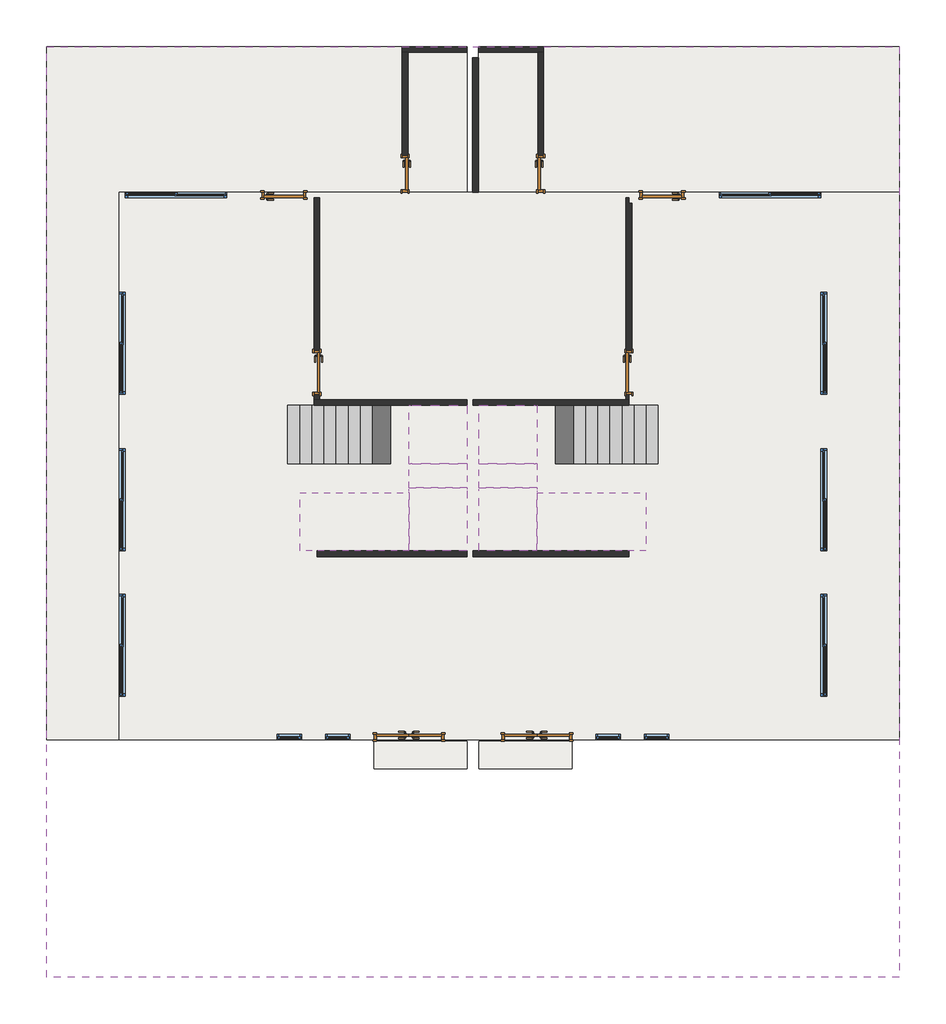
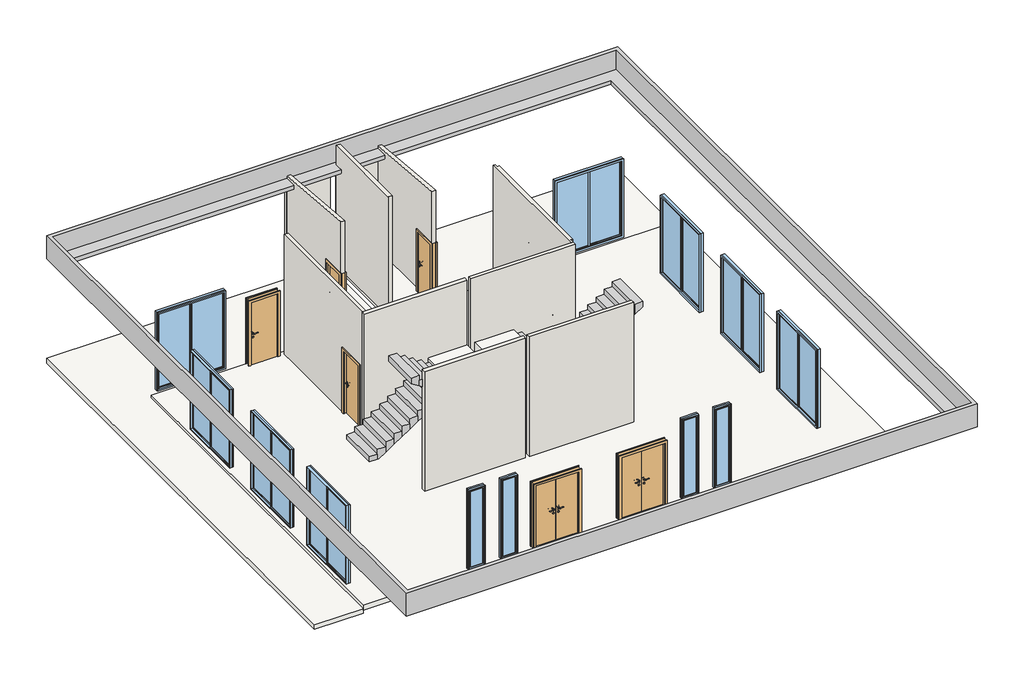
# One storey, incomplete: 12 windows, 11 walls, 8 doors, 8 slabs, 6 stair flights, 1 proxy.
"""IFC4 building model written with IfcOpenShell, lengths in millimetres."""

from ifc_helpers import new_model, si_unit, frame, origin, origin_with_axes, place, context, project, spatial, polyline, outline, extrude, faceted_brep, transform, mapped, element, save
from components import generic_models_b7c912bf, m1_178dd28f, m1_b2f3dea5, m2_c7316569, m2_7e48c0ad, m3_20c00246, m3_ef5b271f, c1_883b8060, c1_4246e2e2, c2_1197bc4f, c2_0ae93d67

model = new_model("IFC4")

# Units and contexts
model_context = context("Model", 3, world=origin())
ifc_project = project(units=[si_unit("LENGTHUNIT", "METRE", prefix="MILLI")], contexts=[model_context])

# Site, building, storey
site = spatial("IfcSite", under=ifc_project)
building = spatial("IfcBuilding", under=site)
storey = spatial("IfcBuildingStorey", under=building, Name="标高 1", Elevation=0.0)

# Proxy
placement = place(None, origin())
generic_models_shape = generic_models_b7c912bf(model_context)
element("IfcBuildingElementProxy", 1, Name="线条 : 线条", ObjectType="线条 : 线条", at=placement, inside=storey, context=model_context, shape_type="MappedRepresentation", body=[
    mapped(generic_models_shape, transform((0.0, 0.0, 0.0), x_axis=(1.0, 0.0, 0.0), y_axis=(0.0, 1.0, 0.0), z_axis=(0.0, 0.0, 1.0))),
])

# Doors
m1_shape = m1_178dd28f(model_context)
element("IfcDoor", 2, ObjectType="单嵌板木门 1 : M1", at=placement, inside=storey, context=model_context, shape_type="MappedRepresentation", body=[
    mapped(m1_shape, transform((-2784.0293904, 13228.7732284, 0.0), x_axis=(1.0, 0.0, 0.0), y_axis=(0.0, 1.0, 0.0), z_axis=(0.0, 0.0, 1.0))),
])
element("IfcDoor", 3, ObjectType="单嵌板木门 1 : M1", at=placement, inside=storey, context=model_context, shape_type="MappedRepresentation", body=[
    mapped(m1_shape, transform((4335.9706096, 9568.7732284, 0.0), x_axis=(0.0, -1.0, 0.0), y_axis=(1.0, 0.0, 0.0), z_axis=(0.0, 0.0, 1.0))),
])
m1_2_shape = m1_b2f3dea5(model_context)
element("IfcDoor", 4, ObjectType="单嵌板木门 1 : M1", at=placement, inside=storey, context=model_context, shape_type="MappedRepresentation", body=[
    mapped(m1_2_shape, transform((-2104.0293904, 9568.7732284, 0.0), x_axis=(0.0, -1.0, 0.0), y_axis=(1.0, 0.0, 0.0), z_axis=(0.0, 0.0, 1.0))),
])
element("IfcDoor", 5, ObjectType="单嵌板木门 1 : M1", at=placement, inside=storey, context=model_context, shape_type="MappedRepresentation", body=[
    mapped(m1_2_shape, transform((5015.9706096, 13228.7732284, 0.0), x_axis=(-1.0, 0.0, 0.0), y_axis=(0.0, -1.0, 0.0), z_axis=(0.0, 0.0, 1.0))),
])
m2_shape = m2_c7316569(model_context)
element("IfcDoor", 6, ObjectType="双面嵌板木门 1 : M2", at=placement, inside=storey, context=model_context, shape_type="MappedRepresentation", body=[
    mapped(m2_shape, transform((-204.0293904, 2048.7732284, 0.0), x_axis=(1.0, 0.0, 0.0), y_axis=(0.0, 1.0, 0.0), z_axis=(0.0, 0.0, 1.0))),
])
m2_2_shape = m2_7e48c0ad(model_context)
element("IfcDoor", 7, ObjectType="双面嵌板木门 1 : M2", at=placement, inside=storey, context=model_context, shape_type="MappedRepresentation", body=[
    mapped(m2_2_shape, transform((2435.9706096, 2048.7732284, 0.0), x_axis=(-1.0, 0.0, 0.0), y_axis=(0.0, -1.0, 0.0), z_axis=(0.0, 0.0, 1.0))),
])
m3_shape = m3_20c00246(model_context)
element("IfcDoor", 8, ObjectType="单嵌板木门 1 : M3", at=placement, inside=storey, context=model_context, shape_type="MappedRepresentation", body=[
    mapped(m3_shape, transform((-284.0293904, 13663.7732284, -100.0), x_axis=(0.0, -1.0, 0.0), y_axis=(1.0, 0.0, 0.0), z_axis=(0.0, 0.0, 1.0))),
])
m3_2_shape = m3_ef5b271f(model_context)
element("IfcDoor", 9, ObjectType="单嵌板木门 1 : M3", at=placement, inside=storey, context=model_context, shape_type="MappedRepresentation", body=[
    mapped(m3_2_shape, transform((2515.9706096, 13663.7732284, -100.0), x_axis=(0.0, -1.0, 0.0), y_axis=(1.0, 0.0, 0.0), z_axis=(0.0, 0.0, 1.0))),
])

# Slabs
element("IfcSlab", 10, ObjectType="常规 - 150mm", at=placement, inside=storey, context=model_context, shape_type="SweptSolid", body=[
    extrude(outline(polyline([(-7684.0293904, 16288.7732284), (995.9706096, 16288.7732284), (995.9706096, 13288.7732284), (-6184.0293904, 13288.7732284), (-6184.0293904, 1988.7732284), (-7684.0293904, 1988.7732284), (-7684.0293904, 16288.7732284)])), frame((0.0, 0.0, -250.0), z_axis=(0.0, 0.0, 1.0), x_axis=(1.0, 0.0, 0.0)), (0.0, 0.0, 1.0), 150.0),
    extrude(outline(polyline([(9915.9706096, 16288.7732284), (9915.9706096, 1988.7732284), (8415.9706096, 1988.7732284), (8415.9706096, 13288.7732284), (1225.9706096, 13288.7732284), (1225.9706096, 16288.7732284), (9915.9706096, 16288.7732284)])), frame((0.0, 0.0, -250.0), z_axis=(0.0, 0.0, 1.0), x_axis=(1.0, 0.0, 0.0)), (0.0, 0.0, 1.0), 150.0),
])
element("IfcSlab", 11, ObjectType="常规 - 150mm", at=placement, inside=storey, context=model_context, shape_type="SweptSolid", body=[
    extrude(outline(polyline([(9915.9706096, 13288.7732284), (9915.9706096, 1988.7732284), (-6184.0293904, 1988.7732284), (-6184.0293904, 13288.7732284), (9915.9706096, 13288.7732284)])), frame((0.0, 0.0, -150.0), z_axis=(0.0, 0.0, 1.0), x_axis=(1.0, 0.0, 0.0)), (0.0, 0.0, 1.0), 150.0),
])
element("IfcSlab", 12, ObjectType="常规 - 150mm", at=placement, inside=storey, context=model_context, shape_type="SweptSolid", body=[
    extrude(outline(polyline([(995.9706096, 1963.7732284), (995.9706096, 1388.7732284), (-924.0293904, 1388.7732284), (-924.0293904, 1963.7732284), (995.9706096, 1963.7732284)])), frame((0.0, 0.0, -150.0), z_axis=(0.0, 0.0, 1.0), x_axis=(1.0, 0.0, 0.0)), (0.0, 0.0, 1.0), 150.0),
])
element("IfcSlab", 13, ObjectType="常规 - 150mm", at=placement, inside=storey, context=model_context, shape_type="SweptSolid", body=[
    extrude(outline(polyline([(1235.9706096, 1963.7732284), (3155.9706096, 1963.7732284), (3155.9706096, 1388.7732284), (1235.9706096, 1388.7732284), (1235.9706096, 1963.7732284)])), frame((0.0, 0.0, -150.0), z_axis=(0.0, 0.0, 1.0), x_axis=(1.0, 0.0, 0.0)), (0.0, 0.0, 1.0), 150.0),
])
element("IfcSlab", 14, ObjectType="300mm 厚度", at=placement, inside=storey, context=model_context, shape_type="Brep", body=[
    faceted_brep([(-204.0293904, 8888.7732284, 1787.5), (-204.0293904, 7688.7732284, 1787.5), (995.9706096, 7688.7732284, 1787.5), (995.9706096, 7875.076449, 1787.5), (995.9706096, 8888.7732284, 1787.5), (-140.332611, 8888.7732284, 1787.5), (-204.0293904, 8888.7732284, 1625.0), (-204.0293904, 8888.7732284, 1446.0970934), (-204.0293904, 7688.7732284, 1446.0970934), (-204.0293904, 7688.7732284, 1608.5970934), (-204.0293904, 7688.7732284, 1625.0), (-140.332611, 7688.7732284, 1487.5), (-140.332611, 7688.7732284, 1608.5970934), (995.9706096, 7688.7732284, 1608.5970934), (995.9706096, 7875.076449, 1487.5), (995.9706096, 8888.7732284, 1487.5), (-140.332611, 8888.7732284, 1487.5), (-140.332611, 7875.076449, 1487.5)], [[[0, 1, 2, 3, 4, 5]], [[1, 0, 6, 7, 8, 9, 10]], [[2, 1, 10, 9, 8, 11, 12, 13]], [[2, 13, 14, 15, 4, 3]], [[7, 6, 0, 5, 4, 15, 16]], [[17, 16, 15, 14]], [[17, 11, 8, 7, 16]], [[11, 17, 12]], [[17, 14, 13, 12]]]),
])
element("IfcSlab", 15, ObjectType="300mm 厚度", at=placement, inside=storey, context=model_context, shape_type="Brep", body=[
    faceted_brep([(995.9706096, 7188.7732284, 2275.0), (-204.0293904, 7188.7732284, 2275.0), (-204.0293904, 7125.076449, 2275.0), (-204.0293904, 7088.7732284, 2275.0), (-204.0293904, 5888.7732284, 2275.0), (-17.7261698, 5888.7732284, 2275.0), (995.9706096, 5888.7732284, 2275.0), (995.9706096, 7125.076449, 2275.0), (995.9706096, 7188.7732284, 2112.5), (995.9706096, 7188.7732284, 1933.5970934), (-204.0293904, 7188.7732284, 1933.5970934), (-204.0293904, 7188.7732284, 2112.5), (-204.0293904, 7125.076449, 1975.0), (-204.0293904, 7088.7732284, 1975.0), (-204.0293904, 7088.7732284, 2096.0970934), (-204.0293904, 5888.7732284, 2096.0970934), (-17.7261698, 5888.7732284, 1975.0), (995.9706096, 5888.7732284, 1975.0), (995.9706096, 7125.076449, 1975.0), (-17.7261698, 7088.7732284, 1975.0)], [[[0, 1, 2, 3, 4, 5, 6, 7]], [[1, 0, 8, 9, 10, 11]], [[1, 11, 10, 12, 13, 14, 3, 2]], [[4, 3, 14, 15]], [[4, 15, 16, 17, 6, 5]], [[9, 8, 0, 7, 6, 17, 18]], [[19, 13, 12, 18, 17, 16]], [[13, 19, 14]], [[18, 12, 10, 9]], [[19, 16, 15, 14]]]),
])
element("IfcSlab", 16, ObjectType="300mm 厚度", at=placement, inside=storey, context=model_context, shape_type="Brep", body=[
    faceted_brep([(2435.9706096, 7688.7732284, 1787.5), (2435.9706096, 8888.7732284, 1787.5), (2372.2738302, 8888.7732284, 1787.5), (1235.9706096, 8888.7732284, 1787.5), (1235.9706096, 7875.076449, 1787.5), (1235.9706096, 7688.7732284, 1787.5), (2435.9706096, 7688.7732284, 1625.0), (2435.9706096, 7688.7732284, 1608.5970934), (2435.9706096, 7688.7732284, 1446.0970934), (2435.9706096, 8888.7732284, 1446.0970934), (2435.9706096, 8888.7732284, 1625.0), (1235.9706096, 7688.7732284, 1608.5970934), (2372.2738302, 7688.7732284, 1608.5970934), (2372.2738302, 7688.7732284, 1487.5), (1235.9706096, 8888.7732284, 1487.5), (1235.9706096, 7875.076449, 1487.5), (2372.2738302, 8888.7732284, 1487.5), (2372.2738302, 7875.076449, 1487.5)], [[[0, 1, 2, 3, 4, 5]], [[1, 0, 6, 7, 8, 9, 10]], [[0, 5, 11, 12, 13, 8, 7, 6]], [[3, 14, 15, 11, 5, 4]], [[1, 10, 9, 16, 14, 3, 2]], [[16, 17, 15, 14]], [[13, 17, 16, 9, 8]], [[17, 13, 12]], [[15, 17, 12, 11]]]),
])
element("IfcSlab", 17, ObjectType="300mm 厚度", at=placement, inside=storey, context=model_context, shape_type="Brep", body=[
    faceted_brep([(2435.9706096, 7188.7732284, 2275.0), (1235.9706096, 7188.7732284, 2275.0), (1235.9706096, 7125.076449, 2275.0), (1235.9706096, 5888.7732284, 2275.0), (2249.667389, 5888.7732284, 2275.0), (2435.9706096, 5888.7732284, 2275.0), (2435.9706096, 7088.7732284, 2275.0), (2435.9706096, 7125.076449, 2275.0), (2435.9706096, 7188.7732284, 2112.5), (2435.9706096, 7188.7732284, 1933.5970934), (1235.9706096, 7188.7732284, 1933.5970934), (1235.9706096, 7188.7732284, 2112.5), (2435.9706096, 7088.7732284, 2096.0970934), (2435.9706096, 7088.7732284, 1975.0), (2435.9706096, 7125.076449, 1975.0), (2435.9706096, 5888.7732284, 2096.0970934), (1235.9706096, 5888.7732284, 1975.0), (2249.667389, 5888.7732284, 1975.0), (1235.9706096, 7125.076449, 1975.0), (2249.667389, 7088.7732284, 1975.0)], [[[0, 1, 2, 3, 4, 5, 6, 7]], [[1, 0, 8, 9, 10, 11]], [[9, 8, 0, 7, 6, 12, 13, 14]], [[6, 5, 15, 12]], [[3, 16, 17, 15, 5, 4]], [[1, 11, 10, 18, 16, 3, 2]], [[13, 19, 17, 16, 18, 14]], [[14, 18, 10, 9]], [[17, 19, 12, 15]], [[19, 13, 12]]]),
])

# Stair flights
element("IfcStairFlight", 18, ObjectType="150mm 结构深度", at=placement, inside=storey, context=model_context, shape_type="Brep", body=[
    faceted_brep([(-2454.0293904, 8888.7732284, 162.5), (-2704.0293904, 8888.7732284, 162.5), (-2704.0293904, 7688.7732284, 162.5), (-2454.0293904, 7688.7732284, 162.5), (-2454.0293904, 8888.7732284, 0.0), (-2704.0293904, 8888.7732284, 0.0), (-2704.0293904, 7688.7732284, 0.0), (-2454.0293904, 7688.7732284, 0.0), (-2204.0293904, 8888.7732284, 325.0), (-2454.0293904, 8888.7732284, 325.0), (-2454.0293904, 7688.7732284, 325.0), (-2204.0293904, 7688.7732284, 325.0), (-2204.0293904, 8888.7732284, 146.0970934), (-2428.7941494, 8888.7732284, 0.0), (-2428.7941494, 7688.7732284, 0.0), (-2204.0293904, 7688.7732284, 146.0970934), (-1954.0293904, 8888.7732284, 487.5), (-2204.0293904, 8888.7732284, 487.5), (-2204.0293904, 7688.7732284, 487.5), (-1954.0293904, 7688.7732284, 487.5), (-1954.0293904, 8888.7732284, 308.5970934), (-1954.0293904, 7688.7732284, 308.5970934), (-1704.0293904, 8888.7732284, 650.0), (-1954.0293904, 8888.7732284, 650.0), (-1954.0293904, 7688.7732284, 650.0), (-1704.0293904, 7688.7732284, 650.0), (-1704.0293904, 8888.7732284, 471.0970934), (-1704.0293904, 7688.7732284, 471.0970934), (-1454.0293904, 8888.7732284, 812.5), (-1704.0293904, 8888.7732284, 812.5), (-1704.0293904, 7688.7732284, 812.5), (-1454.0293904, 7688.7732284, 812.5), (-1454.0293904, 8888.7732284, 633.5970934), (-1454.0293904, 7688.7732284, 633.5970934), (-1204.0293904, 8888.7732284, 975.0), (-1454.0293904, 8888.7732284, 975.0), (-1454.0293904, 7688.7732284, 975.0), (-1204.0293904, 7688.7732284, 975.0), (-1204.0293904, 8888.7732284, 796.0970934), (-1204.0293904, 7688.7732284, 796.0970934), (-954.0293904, 8888.7732284, 1137.5), (-1204.0293904, 8888.7732284, 1137.5), (-1204.0293904, 7688.7732284, 1137.5), (-954.0293904, 7688.7732284, 1137.5), (-954.0293904, 8888.7732284, 958.5970934), (-954.0293904, 7688.7732284, 958.5970934), (-704.0293904, 8888.7732284, 1300.0), (-954.0293904, 8888.7732284, 1300.0), (-954.0293904, 7688.7732284, 1300.0), (-704.0293904, 7688.7732284, 1300.0), (-704.0293904, 8888.7732284, 1121.0970934), (-704.0293904, 7688.7732284, 1121.0970934), (-454.0293904, 8888.7732284, 1462.5), (-704.0293904, 8888.7732284, 1462.5), (-704.0293904, 7688.7732284, 1462.5), (-454.0293904, 7688.7732284, 1462.5), (-454.0293904, 8888.7732284, 1283.5970934), (-454.0293904, 7688.7732284, 1283.5970934), (-204.0293904, 8888.7732284, 1625.0), (-454.0293904, 8888.7732284, 1625.0), (-454.0293904, 7688.7732284, 1625.0), (-204.0293904, 7688.7732284, 1625.0), (-204.0293904, 8888.7732284, 1446.0970934), (-204.0293904, 7688.7732284, 1446.0970934)], [[[0, 1, 2, 3]], [[1, 0, 4, 5]], [[2, 1, 5, 6]], [[3, 2, 6, 7]], [[8, 9, 10, 11]], [[4, 0, 9, 8, 12, 13]], [[0, 3, 10, 9]], [[3, 7, 14, 15, 11, 10]], [[16, 17, 18, 19]], [[17, 16, 20, 12, 8]], [[8, 11, 18, 17]], [[19, 18, 11, 15, 21]], [[22, 23, 24, 25]], [[23, 22, 26, 20, 16]], [[16, 19, 24, 23]], [[25, 24, 19, 21, 27]], [[28, 29, 30, 31]], [[29, 28, 32, 26, 22]], [[22, 25, 30, 29]], [[31, 30, 25, 27, 33]], [[34, 35, 36, 37]], [[35, 34, 38, 32, 28]], [[28, 31, 36, 35]], [[37, 36, 31, 33, 39]], [[40, 41, 42, 43]], [[41, 40, 44, 38, 34]], [[34, 37, 42, 41]], [[43, 42, 37, 39, 45]], [[46, 47, 48, 49]], [[47, 46, 50, 44, 40]], [[40, 43, 48, 47]], [[49, 48, 43, 45, 51]], [[52, 53, 54, 55]], [[53, 52, 56, 50, 46]], [[46, 49, 54, 53]], [[55, 54, 49, 51, 57]], [[58, 59, 60, 61]], [[59, 58, 62, 56, 52]], [[52, 55, 60, 59]], [[61, 60, 55, 57, 63]], [[58, 61, 63, 62]], [[5, 4, 13, 14, 7, 6]], [[14, 13, 12, 20, 26, 32, 38, 44, 50, 56, 62, 63, 57, 51, 45, 39, 33, 27, 21, 15]]]),
])
element("IfcStairFlight", 19, ObjectType="150mm 结构深度", at=placement, inside=storey, context=model_context, shape_type="Brep", body=[
    faceted_brep([(995.9706096, 7438.7732284, 1950.0), (995.9706096, 7688.7732284, 1950.0), (-204.0293904, 7688.7732284, 1950.0), (-204.0293904, 7438.7732284, 1950.0), (995.9706096, 7438.7732284, 1771.0970934), (995.9706096, 7688.7732284, 1608.5970934), (995.9706096, 7688.7732284, 1787.5), (-140.332611, 7688.7732284, 1608.5970934), (-204.0293904, 7688.7732284, 1608.5970934), (-204.0293904, 7688.7732284, 1787.5), (-204.0293904, 7438.7732284, 1771.0970934), (995.9706096, 7188.7732284, 2112.5), (995.9706096, 7438.7732284, 2112.5), (-204.0293904, 7438.7732284, 2112.5), (-204.0293904, 7188.7732284, 2112.5), (995.9706096, 7188.7732284, 1933.5970934), (-204.0293904, 7188.7732284, 1933.5970934)], [[[0, 1, 2, 3]], [[1, 0, 4, 5, 6]], [[2, 1, 6, 5, 7, 8, 9]], [[3, 2, 9, 8, 10]], [[11, 12, 13, 14]], [[12, 11, 15, 4, 0]], [[13, 12, 0, 3]], [[14, 13, 3, 10, 16]], [[11, 14, 16, 15]], [[5, 4, 15, 16, 10, 8, 7]]]),
])
element("IfcStairFlight", 20, ObjectType="150mm 结构深度", at=placement, inside=storey, context=model_context, shape_type="Brep", body=[
    faceted_brep([(-454.0293904, 5888.7732284, 2437.5), (-204.0293904, 5888.7732284, 2437.5), (-204.0293904, 7088.7732284, 2437.5), (-454.0293904, 7088.7732284, 2437.5), (-454.0293904, 5888.7732284, 2258.5970934), (-204.0293904, 5888.7732284, 2096.0970934), (-204.0293904, 5888.7732284, 2275.0), (-204.0293904, 7088.7732284, 2096.0970934), (-454.0293904, 7088.7732284, 2258.5970934), (-704.0293904, 5888.7732284, 2600.0), (-454.0293904, 5888.7732284, 2600.0), (-454.0293904, 7088.7732284, 2600.0), (-704.0293904, 7088.7732284, 2600.0), (-704.0293904, 5888.7732284, 2421.0970934), (-704.0293904, 7088.7732284, 2421.0970934), (-954.0293904, 5888.7732284, 2762.5), (-704.0293904, 5888.7732284, 2762.5), (-704.0293904, 7088.7732284, 2762.5), (-954.0293904, 7088.7732284, 2762.5), (-954.0293904, 5888.7732284, 2583.5970934), (-954.0293904, 7088.7732284, 2583.5970934), (-1204.0293904, 5888.7732284, 2925.0), (-954.0293904, 5888.7732284, 2925.0), (-954.0293904, 7088.7732284, 2925.0), (-1204.0293904, 7088.7732284, 2925.0), (-1204.0293904, 5888.7732284, 2746.0970934), (-1204.0293904, 7088.7732284, 2746.0970934), (-1454.0293904, 5888.7732284, 3087.5), (-1204.0293904, 5888.7732284, 3087.5), (-1204.0293904, 7088.7732284, 3087.5), (-1454.0293904, 7088.7732284, 3087.5), (-1454.0293904, 5888.7732284, 2908.5970934), (-1454.0293904, 7088.7732284, 2908.5970934), (-1704.0293904, 5888.7732284, 3250.0), (-1454.0293904, 5888.7732284, 3250.0), (-1454.0293904, 7088.7732284, 3250.0), (-1704.0293904, 7088.7732284, 3250.0), (-1704.0293904, 5888.7732284, 3071.0970934), (-1704.0293904, 7088.7732284, 3071.0970934), (-1954.0293904, 5888.7732284, 3412.5), (-1704.0293904, 5888.7732284, 3412.5), (-1704.0293904, 7088.7732284, 3412.5), (-1954.0293904, 7088.7732284, 3412.5), (-1954.0293904, 5888.7732284, 3233.5970934), (-1954.0293904, 7088.7732284, 3233.5970934), (-2204.0293904, 5888.7732284, 3575.0), (-1954.0293904, 5888.7732284, 3575.0), (-1954.0293904, 7088.7732284, 3575.0), (-2204.0293904, 7088.7732284, 3575.0), (-2204.0293904, 5888.7732284, 3396.0970934), (-2204.0293904, 7088.7732284, 3396.0970934), (-2454.0293904, 5888.7732284, 3737.5), (-2204.0293904, 5888.7732284, 3737.5), (-2204.0293904, 7088.7732284, 3737.5), (-2454.0293904, 7088.7732284, 3737.5), (-2454.0293904, 5888.7732284, 3558.5970934), (-2454.0293904, 7088.7732284, 3558.5970934)], [[[0, 1, 2, 3]], [[1, 0, 4, 5, 6]], [[2, 1, 6, 5, 7]], [[3, 2, 7, 8]], [[9, 10, 11, 12]], [[10, 9, 13, 4, 0]], [[11, 10, 0, 3]], [[12, 11, 3, 8, 14]], [[15, 16, 17, 18]], [[16, 15, 19, 13, 9]], [[17, 16, 9, 12]], [[18, 17, 12, 14, 20]], [[21, 22, 23, 24]], [[22, 21, 25, 19, 15]], [[23, 22, 15, 18]], [[24, 23, 18, 20, 26]], [[27, 28, 29, 30]], [[28, 27, 31, 25, 21]], [[29, 28, 21, 24]], [[30, 29, 24, 26, 32]], [[33, 34, 35, 36]], [[34, 33, 37, 31, 27]], [[35, 34, 27, 30]], [[36, 35, 30, 32, 38]], [[39, 40, 41, 42]], [[40, 39, 43, 37, 33]], [[41, 40, 33, 36]], [[42, 41, 36, 38, 44]], [[45, 46, 47, 48]], [[46, 45, 49, 43, 39]], [[47, 46, 39, 42]], [[48, 47, 42, 44, 50]], [[51, 52, 53, 54]], [[52, 51, 55, 49, 45]], [[53, 52, 45, 48]], [[54, 53, 48, 50, 56]], [[51, 54, 56, 55]], [[5, 4, 13, 19, 25, 31, 37, 43, 49, 55, 56, 50, 44, 38, 32, 26, 20, 14, 8, 7]]]),
])
element("IfcStairFlight", 21, ObjectType="150mm 结构深度", at=placement, inside=storey, context=model_context, shape_type="Brep", body=[
    faceted_brep([(4685.9706096, 7688.7732284, 162.5), (4935.9706096, 7688.7732284, 162.5), (4935.9706096, 8888.7732284, 162.5), (4685.9706096, 8888.7732284, 162.5), (4685.9706096, 7688.7732284, 0.0), (4935.9706096, 7688.7732284, 0.0), (4935.9706096, 8888.7732284, 0.0), (4685.9706096, 8888.7732284, 0.0), (4435.9706096, 7688.7732284, 325.0), (4685.9706096, 7688.7732284, 325.0), (4685.9706096, 8888.7732284, 325.0), (4435.9706096, 8888.7732284, 325.0), (4435.9706096, 7688.7732284, 146.0970934), (4660.7353687, 7688.7732284, 0.0), (4660.7353687, 8888.7732284, 0.0), (4435.9706096, 8888.7732284, 146.0970934), (4185.9706096, 7688.7732284, 487.5), (4435.9706096, 7688.7732284, 487.5), (4435.9706096, 8888.7732284, 487.5), (4185.9706096, 8888.7732284, 487.5), (4185.9706096, 7688.7732284, 308.5970934), (4185.9706096, 8888.7732284, 308.5970934), (3935.9706096, 7688.7732284, 650.0), (4185.9706096, 7688.7732284, 650.0), (4185.9706096, 8888.7732284, 650.0), (3935.9706096, 8888.7732284, 650.0), (3935.9706096, 7688.7732284, 471.0970934), (3935.9706096, 8888.7732284, 471.0970934), (3685.9706096, 7688.7732284, 812.5), (3935.9706096, 7688.7732284, 812.5), (3935.9706096, 8888.7732284, 812.5), (3685.9706096, 8888.7732284, 812.5), (3685.9706096, 7688.7732284, 633.5970934), (3685.9706096, 8888.7732284, 633.5970934), (3435.9706096, 7688.7732284, 975.0), (3685.9706096, 7688.7732284, 975.0), (3685.9706096, 8888.7732284, 975.0), (3435.9706096, 8888.7732284, 975.0), (3435.9706096, 7688.7732284, 796.0970934), (3435.9706096, 8888.7732284, 796.0970934), (3185.9706096, 7688.7732284, 1137.5), (3435.9706096, 7688.7732284, 1137.5), (3435.9706096, 8888.7732284, 1137.5), (3185.9706096, 8888.7732284, 1137.5), (3185.9706096, 7688.7732284, 958.5970934), (3185.9706096, 8888.7732284, 958.5970934), (2935.9706096, 7688.7732284, 1300.0), (3185.9706096, 7688.7732284, 1300.0), (3185.9706096, 8888.7732284, 1300.0), (2935.9706096, 8888.7732284, 1300.0), (2935.9706096, 7688.7732284, 1121.0970934), (2935.9706096, 8888.7732284, 1121.0970934), (2685.9706096, 7688.7732284, 1462.5), (2935.9706096, 7688.7732284, 1462.5), (2935.9706096, 8888.7732284, 1462.5), (2685.9706096, 8888.7732284, 1462.5), (2685.9706096, 7688.7732284, 1283.5970934), (2685.9706096, 8888.7732284, 1283.5970934), (2435.9706096, 7688.7732284, 1625.0), (2685.9706096, 7688.7732284, 1625.0), (2685.9706096, 8888.7732284, 1625.0), (2435.9706096, 8888.7732284, 1625.0), (2435.9706096, 7688.7732284, 1446.0970934), (2435.9706096, 8888.7732284, 1446.0970934)], [[[0, 1, 2, 3]], [[1, 0, 4, 5]], [[2, 1, 5, 6]], [[3, 2, 6, 7]], [[8, 9, 10, 11]], [[4, 0, 9, 8, 12, 13]], [[0, 3, 10, 9]], [[3, 7, 14, 15, 11, 10]], [[16, 17, 18, 19]], [[17, 16, 20, 12, 8]], [[8, 11, 18, 17]], [[19, 18, 11, 15, 21]], [[22, 23, 24, 25]], [[23, 22, 26, 20, 16]], [[16, 19, 24, 23]], [[25, 24, 19, 21, 27]], [[28, 29, 30, 31]], [[29, 28, 32, 26, 22]], [[22, 25, 30, 29]], [[31, 30, 25, 27, 33]], [[34, 35, 36, 37]], [[35, 34, 38, 32, 28]], [[28, 31, 36, 35]], [[37, 36, 31, 33, 39]], [[40, 41, 42, 43]], [[41, 40, 44, 38, 34]], [[34, 37, 42, 41]], [[43, 42, 37, 39, 45]], [[46, 47, 48, 49]], [[47, 46, 50, 44, 40]], [[40, 43, 48, 47]], [[49, 48, 43, 45, 51]], [[52, 53, 54, 55]], [[53, 52, 56, 50, 46]], [[46, 49, 54, 53]], [[55, 54, 49, 51, 57]], [[58, 59, 60, 61]], [[59, 58, 62, 56, 52]], [[52, 55, 60, 59]], [[61, 60, 55, 57, 63]], [[58, 61, 63, 62]], [[5, 4, 13, 14, 7, 6]], [[14, 13, 12, 20, 26, 32, 38, 44, 50, 56, 62, 63, 57, 51, 45, 39, 33, 27, 21, 15]]]),
])
element("IfcStairFlight", 22, ObjectType="150mm 结构深度", at=placement, inside=storey, context=model_context, shape_type="Brep", body=[
    faceted_brep([(2435.9706096, 7438.7732284, 1950.0), (2435.9706096, 7688.7732284, 1950.0), (1235.9706096, 7688.7732284, 1950.0), (1235.9706096, 7438.7732284, 1950.0), (2435.9706096, 7438.7732284, 1771.0970934), (2435.9706096, 7688.7732284, 1608.5970934), (2435.9706096, 7688.7732284, 1787.5), (2372.2738302, 7688.7732284, 1608.5970934), (1235.9706096, 7688.7732284, 1608.5970934), (1235.9706096, 7688.7732284, 1787.5), (1235.9706096, 7438.7732284, 1771.0970934), (2435.9706096, 7188.7732284, 2112.5), (2435.9706096, 7438.7732284, 2112.5), (1235.9706096, 7438.7732284, 2112.5), (1235.9706096, 7188.7732284, 2112.5), (2435.9706096, 7188.7732284, 1933.5970934), (1235.9706096, 7188.7732284, 1933.5970934)], [[[0, 1, 2, 3]], [[1, 0, 4, 5, 6]], [[2, 1, 6, 5, 7, 8, 9]], [[3, 2, 9, 8, 10]], [[11, 12, 13, 14]], [[12, 11, 15, 4, 0]], [[13, 12, 0, 3]], [[14, 13, 3, 10, 16]], [[11, 14, 16, 15]], [[5, 4, 15, 16, 10, 8, 7]]]),
])
element("IfcStairFlight", 23, ObjectType="150mm 结构深度", at=placement, inside=storey, context=model_context, shape_type="Brep", body=[
    faceted_brep([(2685.9706096, 7088.7732284, 2437.5), (2435.9706096, 7088.7732284, 2437.5), (2435.9706096, 5888.7732284, 2437.5), (2685.9706096, 5888.7732284, 2437.5), (2685.9706096, 7088.7732284, 2258.5970934), (2435.9706096, 7088.7732284, 2096.0970934), (2435.9706096, 5888.7732284, 2096.0970934), (2435.9706096, 5888.7732284, 2275.0), (2685.9706096, 5888.7732284, 2258.5970934), (2935.9706096, 7088.7732284, 2600.0), (2685.9706096, 7088.7732284, 2600.0), (2685.9706096, 5888.7732284, 2600.0), (2935.9706096, 5888.7732284, 2600.0), (2935.9706096, 7088.7732284, 2421.0970934), (2935.9706096, 5888.7732284, 2421.0970934), (3185.9706096, 7088.7732284, 2762.5), (2935.9706096, 7088.7732284, 2762.5), (2935.9706096, 5888.7732284, 2762.5), (3185.9706096, 5888.7732284, 2762.5), (3185.9706096, 7088.7732284, 2583.5970934), (3185.9706096, 5888.7732284, 2583.5970934), (3435.9706096, 7088.7732284, 2925.0), (3185.9706096, 7088.7732284, 2925.0), (3185.9706096, 5888.7732284, 2925.0), (3435.9706096, 5888.7732284, 2925.0), (3435.9706096, 7088.7732284, 2746.0970934), (3435.9706096, 5888.7732284, 2746.0970934), (3685.9706096, 7088.7732284, 3087.5), (3435.9706096, 7088.7732284, 3087.5), (3435.9706096, 5888.7732284, 3087.5), (3685.9706096, 5888.7732284, 3087.5), (3685.9706096, 7088.7732284, 2908.5970934), (3685.9706096, 5888.7732284, 2908.5970934), (3935.9706096, 7088.7732284, 3250.0), (3685.9706096, 7088.7732284, 3250.0), (3685.9706096, 5888.7732284, 3250.0), (3935.9706096, 5888.7732284, 3250.0), (3935.9706096, 7088.7732284, 3071.0970934), (3935.9706096, 5888.7732284, 3071.0970934), (4185.9706096, 7088.7732284, 3412.5), (3935.9706096, 7088.7732284, 3412.5), (3935.9706096, 5888.7732284, 3412.5), (4185.9706096, 5888.7732284, 3412.5), (4185.9706096, 7088.7732284, 3233.5970934), (4185.9706096, 5888.7732284, 3233.5970934), (4435.9706096, 7088.7732284, 3575.0), (4185.9706096, 7088.7732284, 3575.0), (4185.9706096, 5888.7732284, 3575.0), (4435.9706096, 5888.7732284, 3575.0), (4435.9706096, 7088.7732284, 3396.0970934), (4435.9706096, 5888.7732284, 3396.0970934), (4685.9706096, 7088.7732284, 3737.5), (4435.9706096, 7088.7732284, 3737.5), (4435.9706096, 5888.7732284, 3737.5), (4685.9706096, 5888.7732284, 3737.5), (4685.9706096, 7088.7732284, 3558.5970934), (4685.9706096, 5888.7732284, 3558.5970934)], [[[0, 1, 2, 3]], [[1, 0, 4, 5]], [[2, 1, 5, 6, 7]], [[3, 2, 7, 6, 8]], [[9, 10, 11, 12]], [[10, 9, 13, 4, 0]], [[11, 10, 0, 3]], [[12, 11, 3, 8, 14]], [[15, 16, 17, 18]], [[16, 15, 19, 13, 9]], [[17, 16, 9, 12]], [[18, 17, 12, 14, 20]], [[21, 22, 23, 24]], [[22, 21, 25, 19, 15]], [[23, 22, 15, 18]], [[24, 23, 18, 20, 26]], [[27, 28, 29, 30]], [[28, 27, 31, 25, 21]], [[29, 28, 21, 24]], [[30, 29, 24, 26, 32]], [[33, 34, 35, 36]], [[34, 33, 37, 31, 27]], [[35, 34, 27, 30]], [[36, 35, 30, 32, 38]], [[39, 40, 41, 42]], [[40, 39, 43, 37, 33]], [[41, 40, 33, 36]], [[42, 41, 36, 38, 44]], [[45, 46, 47, 48]], [[46, 45, 49, 43, 39]], [[47, 46, 39, 42]], [[48, 47, 42, 44, 50]], [[51, 52, 53, 54]], [[52, 51, 55, 49, 45]], [[53, 52, 45, 48]], [[54, 53, 48, 50, 56]], [[51, 54, 56, 55]], [[5, 4, 13, 19, 25, 31, 37, 43, 49, 55, 56, 50, 44, 38, 32, 26, 20, 14, 8, 6]]]),
])

# Walls
element("IfcWall", 24, ObjectType="墙", at=placement, inside=storey, context=model_context, shape_type="Brep", body=[
    faceted_brep([(995.9706096, 9008.7732284, 0.0), (-2044.0293904, 9008.7732284, 0.0), (-2164.0293904, 9008.7732284, 0.0), (-2164.0293904, 9008.7732284, 3900.0), (-2044.0293904, 9008.7732284, 3900.0), (995.9706096, 9008.7732284, 3900.0), (995.9706096, 8888.7732284, 0.0), (995.9706096, 8888.7732284, 3900.0), (-2164.0293904, 8888.7732284, 3900.0), (-2164.0293904, 8888.7732284, 0.0)], [[[0, 1, 2, 3, 4, 5]], [[6, 7, 8, 9]], [[2, 1, 0, 6, 9]], [[5, 4, 3, 8, 7]], [[0, 5, 7, 6]], [[3, 2, 9, 8]]]),
])
element("IfcWall", 25, ObjectType="墙", at=placement, inside=storey, context=model_context, shape_type="SweptSolid", body=[
    extrude(outline(polyline([(995.9706096, 5768.7732284), (-2104.0293904, 5768.7732284), (-2104.0293904, 5888.7732284), (995.9706096, 5888.7732284), (995.9706096, 5768.7732284)])), origin_with_axes(), (0.0, 0.0, 1.0), 3900.0),
])
element("IfcWall", 26, ObjectType="墙", at=placement, inside=storey, context=model_context, shape_type="SweptSolid", body=[
    extrude(outline(polyline([(9008.7732284, 3900.0), (13168.7732284, 3900.0), (13168.7732284, 0.0), (10018.7732284, 0.0), (10018.7732284, 2100.0), (9118.7732284, 2100.0), (9118.7732284, 0.0), (9008.7732284, 0.0), (9008.7732284, 3900.0)])), frame((-2164.0293904, 0.0, 0.0), z_axis=(1.0, 0.0, 0.0), x_axis=(0.0, 1.0, 0.0)), (0.0, 0.0, 1.0), 120.0),
])
element("IfcWall", 27, ObjectType="墙", at=placement, inside=storey, context=model_context, shape_type="Brep", body=[
    faceted_brep([(-344.0293904, 16168.7732284, 0.0), (-224.0293904, 16168.7732284, 0.0), (995.9706096, 16168.7732284, 0.0), (995.9706096, 16168.7732284, 3150.0), (-344.0293904, 16168.7732284, 3150.0), (-344.0293904, 16288.7732284, 0.0), (-344.0293904, 16288.7732284, 3150.0), (995.9706096, 16288.7732284, 3150.0), (995.9706096, 16288.7732284, 250.0), (995.9706096, 16288.7732284, 0.0)], [[[0, 1, 2, 3, 4]], [[5, 6, 7, 8, 9]], [[2, 1, 0, 5, 9]], [[4, 3, 7, 6]], [[3, 2, 9, 8, 7]], [[0, 4, 6, 5]]]),
])
element("IfcWall", 28, ObjectType="墙", at=placement, inside=storey, context=model_context, shape_type="Brep", body=[
    faceted_brep([(-224.0293904, 16168.7732284, 0.0), (-224.0293904, 16168.7732284, 3349.4270244), (-224.0293904, 13288.7732284, 3601.3943753), (-224.0293904, 13288.7732284, 1900.0), (-224.0293904, 14038.7732284, 1900.0), (-224.0293904, 14038.7732284, 0.0), (-344.0293904, 16168.7732284, 3349.4270244), (-344.0293904, 16168.7732284, 3150.0), (-344.0293904, 16168.7732284, 0.0), (-344.0293904, 14038.7732284, 0.0), (-344.0293904, 14038.7732284, 1900.0), (-344.0293904, 13288.7732284, 1900.0), (-344.0293904, 13288.7732284, 3601.3943753)], [[[0, 1, 2, 3, 4, 5]], [[6, 7, 8, 9, 10, 11, 12]], [[8, 0, 5, 9]], [[1, 0, 8, 7, 6]], [[2, 12, 11, 3]], [[10, 4, 3, 11]], [[4, 10, 9, 5]], [[2, 1, 6, 12]]]),
])
element("IfcWall", 29, ObjectType="墙", at=placement, inside=storey, context=model_context, shape_type="Brep", body=[
    faceted_brep([(1115.9706096, 8888.7732284, 3900.0), (1115.9706096, 8888.7732284, 0.0), (4335.9706096, 8888.7732284, 0.0), (4335.9706096, 8888.7732284, 3900.0), (1115.9706096, 9008.7732284, 0.0), (1115.9706096, 9008.7732284, 3900.0), (4275.9706096, 9008.7732284, 3900.0), (4335.9706096, 9008.7732284, 3900.0), (4335.9706096, 9008.7732284, 0.0), (4275.9706096, 9008.7732284, 0.0)], [[[0, 1, 2, 3]], [[4, 5, 6, 7, 8, 9]], [[1, 4, 9, 8, 2]], [[5, 0, 3, 7, 6]], [[1, 0, 5, 4]], [[3, 2, 8, 7]]]),
])
element("IfcWall", 30, ObjectType="墙", at=placement, inside=storey, context=model_context, shape_type="SweptSolid", body=[
    extrude(outline(polyline([(1115.9706096, 5888.7732284), (4335.9706096, 5888.7732284), (4335.9706096, 5768.7732284), (1115.9706096, 5768.7732284), (1115.9706096, 5888.7732284)])), origin_with_axes(), (0.0, 0.0, 1.0), 3900.0),
])
element("IfcWall", 31, ObjectType="墙", at=placement, inside=storey, context=model_context, shape_type="Brep", body=[
    faceted_brep([(4275.9706096, 9008.7732284, 3900.0), (4275.9706096, 13168.7732284, 3900.0), (4275.9706096, 13168.7732284, 0.0), (4275.9706096, 10018.7732284, 0.0), (4275.9706096, 10018.7732284, 2100.0), (4275.9706096, 9118.7732284, 2100.0), (4275.9706096, 9118.7732284, 0.0), (4275.9706096, 9008.7732284, 0.0), (4395.9706096, 9118.7732284, 2100.0), (4395.9706096, 10018.7732284, 2100.0), (4395.9706096, 10018.7732284, 0.0), (4395.9706096, 13058.7732284, 0.0), (4395.9706096, 13058.7732284, 3900.0), (4395.9706096, 9118.7732284, 3900.0), (4335.9706096, 9118.7732284, 0.0), (4335.9706096, 9008.7732284, 0.0), (4335.9706096, 13168.7732284, 0.0), (4335.9706096, 13058.7732284, 0.0), (4335.9706096, 9008.7732284, 3900.0), (4335.9706096, 9118.7732284, 3900.0), (4335.9706096, 13058.7732284, 3900.0), (4335.9706096, 13168.7732284, 3900.0), (4335.9706096, 9118.7732284, 2100.0)], [[[0, 1, 2, 3, 4, 5, 6, 7]], [[8, 9, 10, 11, 12, 13]], [[7, 6, 14, 15]], [[3, 2, 16, 17, 11, 10]], [[1, 0, 18, 19, 13, 12, 20, 21]], [[2, 1, 21, 16]], [[0, 7, 15, 18]], [[6, 5, 22, 14]], [[4, 9, 8, 22, 5]], [[9, 4, 3, 10]], [[20, 17, 16, 21]], [[17, 20, 12, 11]], [[22, 19, 18, 15, 14]], [[19, 22, 8, 13]]]),
])
element("IfcWall", 32, ObjectType="墙", at=placement, inside=storey, context=model_context, shape_type="Brep", body=[
    faceted_brep([(1110.9706096, 13288.7732284, 0.0), (1110.9706096, 13288.7732284, 3900.0), (1110.9706096, 16058.7732284, 3900.0), (1110.9706096, 16058.7732284, 0.0), (1230.9706096, 13288.7732284, 3900.0), (1230.9706096, 13288.7732284, 0.0), (1230.9706096, 16058.7732284, 0.0), (1230.9706096, 16058.7732284, 3900.0), (1115.9706096, 13288.7732284, 3900.0)], [[[0, 1, 2, 3]], [[4, 5, 6, 7]], [[5, 0, 3, 6]], [[1, 8, 4, 7, 2]], [[1, 0, 5, 4, 8]], [[3, 2, 7, 6]]]),
])
element("IfcWall", 33, ObjectType="墙", at=placement, inside=storey, context=model_context, shape_type="Brep", body=[
    faceted_brep([(2575.9706096, 16288.7732284, 0.0), (1230.9706096, 16288.7732284, 0.0), (1230.9706096, 16288.7732284, 3150.0), (2575.9706096, 16288.7732284, 3150.0), (2575.9706096, 16168.7732284, 0.0), (2575.9706096, 16168.7732284, 3150.0), (1230.9706096, 16168.7732284, 3150.0), (1230.9706096, 16168.7732284, 0.0), (2455.9706096, 16168.7732284, 0.0)], [[[0, 1, 2, 3]], [[4, 5, 6, 7, 8]], [[1, 0, 4, 8, 7]], [[3, 2, 6, 5]], [[0, 3, 5, 4]], [[1, 7, 6, 2]]]),
])
element("IfcWall", 34, ObjectType="墙", at=placement, inside=storey, context=model_context, shape_type="Brep", body=[
    faceted_brep([(2575.9706096, 16168.7732284, 0.0), (2575.9706096, 16168.7732284, 3150.0), (2575.9706096, 16168.7732284, 3349.4270244), (2575.9706096, 13288.7732284, 3601.3943753), (2575.9706096, 13288.7732284, 1900.0), (2575.9706096, 14038.7732284, 1900.0), (2575.9706096, 14038.7732284, 0.0), (2455.9706096, 16168.7732284, 3349.4270244), (2455.9706096, 16168.7732284, 0.0), (2455.9706096, 14038.7732284, 0.0), (2455.9706096, 14038.7732284, 1900.0), (2455.9706096, 13288.7732284, 1900.0), (2455.9706096, 13288.7732284, 3601.3943753)], [[[0, 1, 2, 3, 4, 5, 6]], [[7, 8, 9, 10, 11, 12]], [[8, 0, 6, 9]], [[2, 1, 0, 8, 7]], [[3, 12, 11, 4]], [[10, 5, 4, 11]], [[5, 10, 9, 6]], [[3, 2, 7, 12]]]),
])

# Windows
c1_shape = c1_883b8060(model_context)
element("IfcWindow", 35, ObjectType="固定窗 : C1", at=placement, inside=storey, context=model_context, shape_type="MappedRepresentation", body=[
    mapped(c1_shape, transform((-2712.1293904, 2048.7732284, 0.0), x_axis=(-1.0, 0.0, 0.0), y_axis=(0.0, -1.0, 0.0), z_axis=(0.0, 0.0, 1.0))),
])
element("IfcWindow", 36, ObjectType="固定窗 : C1", at=placement, inside=storey, context=model_context, shape_type="MappedRepresentation", body=[
    mapped(c1_shape, transform((-1712.1293904, 2048.7732284, 0.0), x_axis=(-1.0, 0.0, 0.0), y_axis=(0.0, -1.0, 0.0), z_axis=(0.0, 0.0, 1.0))),
])
c1_2_shape = c1_4246e2e2(model_context)
element("IfcWindow", 37, ObjectType="固定窗 : C1", at=placement, inside=storey, context=model_context, shape_type="MappedRepresentation", body=[
    mapped(c1_2_shape, transform((4944.0706096, 2048.7732284, 0.0), x_axis=(1.0, 0.0, 0.0), y_axis=(0.0, 1.0, 0.0), z_axis=(0.0, 0.0, 1.0))),
])
element("IfcWindow", 38, ObjectType="固定窗 : C1", at=placement, inside=storey, context=model_context, shape_type="MappedRepresentation", body=[
    mapped(c1_2_shape, transform((3944.0706096, 2048.7732284, 0.0), x_axis=(1.0, 0.0, 0.0), y_axis=(0.0, 1.0, 0.0), z_axis=(0.0, 0.0, 1.0))),
])
c2_shape = c2_1197bc4f(model_context)
element("IfcWindow", 39, ObjectType="推拉窗6 : C2", at=placement, inside=storey, context=model_context, shape_type="MappedRepresentation", body=[
    mapped(c2_shape, transform((-5023.5543904, 13295.6466659, 0.0), x_axis=(1.0, 0.0, 0.0), y_axis=(0.0, 1.0, 0.0), z_axis=(0.0, 0.0, 1.0))),
])
element("IfcWindow", 40, ObjectType="推拉窗6 : C2", at=placement, inside=storey, context=model_context, shape_type="MappedRepresentation", body=[
    mapped(c2_shape, transform((-6190.9028279, 10159.2482284, 0.0), x_axis=(0.0, 1.0, 0.0), y_axis=(-1.0, 0.0, 0.0), z_axis=(0.0, 0.0, 1.0))),
])
element("IfcWindow", 41, ObjectType="推拉窗6 : C2", at=placement, inside=storey, context=model_context, shape_type="MappedRepresentation", body=[
    mapped(c2_shape, transform((-6190.9028279, 6929.2482284, 0.0), x_axis=(0.0, 1.0, 0.0), y_axis=(-1.0, 0.0, 0.0), z_axis=(0.0, 0.0, 1.0))),
])
element("IfcWindow", 42, ObjectType="推拉窗6 : C2", at=placement, inside=storey, context=model_context, shape_type="MappedRepresentation", body=[
    mapped(c2_shape, transform((-6190.9028279, 3929.2482284, 0.0), x_axis=(0.0, 1.0, 0.0), y_axis=(-1.0, 0.0, 0.0), z_axis=(0.0, 0.0, 1.0))),
])
c2_2_shape = c2_0ae93d67(model_context)
element("IfcWindow", 43, ObjectType="推拉窗6 : C2", at=placement, inside=storey, context=model_context, shape_type="MappedRepresentation", body=[
    mapped(c2_2_shape, transform((7255.4956096, 13295.6466659, 0.0), x_axis=(-1.0, 0.0, 0.0), y_axis=(0.0, -1.0, 0.0), z_axis=(0.0, 0.0, 1.0))),
])
element("IfcWindow", 44, ObjectType="推拉窗6 : C2", at=placement, inside=storey, context=model_context, shape_type="MappedRepresentation", body=[
    mapped(c2_2_shape, transform((8422.8440471, 10159.2482284, 0.0), x_axis=(0.0, 1.0, 0.0), y_axis=(-1.0, 0.0, 0.0), z_axis=(0.0, 0.0, 1.0))),
])
element("IfcWindow", 45, ObjectType="推拉窗6 : C2", at=placement, inside=storey, context=model_context, shape_type="MappedRepresentation", body=[
    mapped(c2_2_shape, transform((8422.8440471, 6929.2482284, 0.0), x_axis=(0.0, 1.0, 0.0), y_axis=(-1.0, 0.0, 0.0), z_axis=(0.0, 0.0, 1.0))),
])
element("IfcWindow", 46, ObjectType="推拉窗6 : C2", at=placement, inside=storey, context=model_context, shape_type="MappedRepresentation", body=[
    mapped(c2_2_shape, transform((8422.8440471, 3929.2482284, 0.0), x_axis=(0.0, 1.0, 0.0), y_axis=(-1.0, 0.0, 0.0), z_axis=(0.0, 0.0, 1.0))),
])

save(model, "model.ifc")
